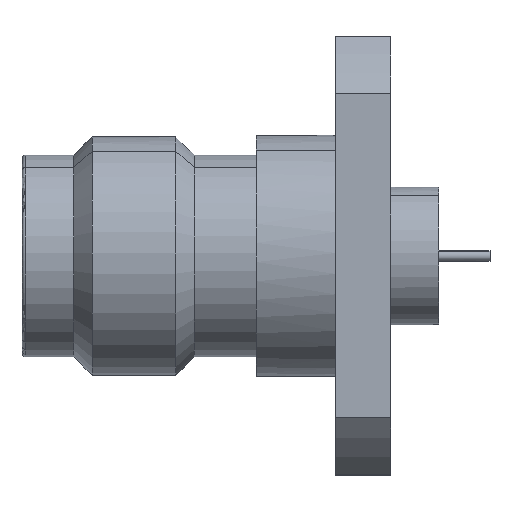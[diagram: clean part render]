
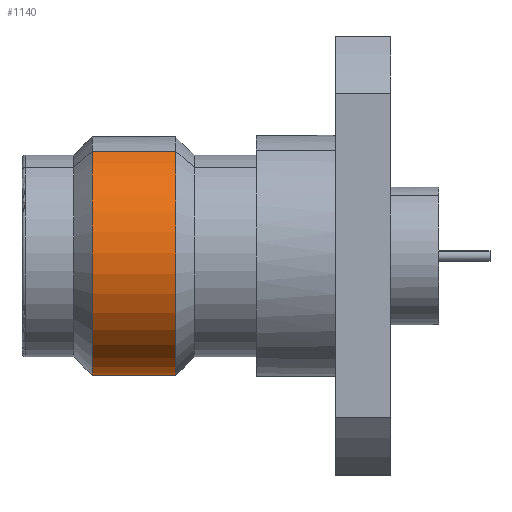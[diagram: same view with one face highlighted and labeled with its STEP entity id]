
A CAD part, top view. The second image highlights one B-rep face of the part: STEP entity #1140.
In plain terms, the highlighted cylindrical face has radius 3.46 mm (diameter 6.92 mm), a partial arc.
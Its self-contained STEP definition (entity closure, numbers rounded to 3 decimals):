
#1042=CARTESIAN_POINT('Vertex',(2.035,3.036,1.659)) ;
#1049=CARTESIAN_POINT('Vertex',(2.035,-3.036,-1.659)) ;
#1069=CARTESIAN_POINT('Axis2P3D Location',(2.035,0.,0.)) ;
#1086=CARTESIAN_POINT('Line Origine',(9.789,3.036,1.659)) ;
#1090=CARTESIAN_POINT('Vertex',(4.465,3.036,1.659)) ;
#1109=CARTESIAN_POINT('Vertex',(4.465,-3.036,-1.659)) ;
#1112=CARTESIAN_POINT('Line Origine',(9.789,-3.036,-1.659)) ;
#1124=CARTESIAN_POINT('Axis2P3D Location',(9.789,0.,0.)) ;
#1129=CARTESIAN_POINT('Axis2P3D Location',(4.465,0.,0.)) ;
#1070=DIRECTION('Axis2P3D Direction',(1.,0.,0.)) ;
#1087=DIRECTION('Vector Direction',(1.,0.,0.)) ;
#1113=DIRECTION('Vector Direction',(1.,0.,0.)) ;
#1125=DIRECTION('Axis2P3D Direction',(1.,0.,0.)) ;
#1126=DIRECTION('Axis2P3D XDirection',(0.,0.878,0.479)) ;
#1130=DIRECTION('Axis2P3D Direction',(1.,0.,0.)) ;
#1071=AXIS2_PLACEMENT_3D('Circle Axis2P3D',#1069,#1070,$) ;
#1127=AXIS2_PLACEMENT_3D('Cylinder Axis2P3D',#1124,#1125,#1126) ;
#1131=AXIS2_PLACEMENT_3D('Circle Axis2P3D',#1129,#1130,$) ;
#1135=ORIENTED_EDGE('',*,*,#1116,.T.) ;
#1136=ORIENTED_EDGE('',*,*,#1133,.F.) ;
#1137=ORIENTED_EDGE('',*,*,#1092,.F.) ;
#1138=ORIENTED_EDGE('',*,*,#1073,.T.) ;
#1088=VECTOR('Line Direction',#1087,1.) ;
#1114=VECTOR('Line Direction',#1113,1.) ;
#1140=ADVANCED_FACE('',(#1139),#1128,.T.) ;
#1072=CIRCLE('generated circle',#1071,3.46) ;
#1132=CIRCLE('generated circle',#1131,3.46) ;
#1128=CYLINDRICAL_SURFACE('generated cylinder',#1127,3.46) ;
#1073=EDGE_CURVE('',#1043,#1050,#1072,.T.) ;
#1092=EDGE_CURVE('',#1043,#1091,#1089,.T.) ;
#1116=EDGE_CURVE('',#1050,#1110,#1115,.T.) ;
#1133=EDGE_CURVE('',#1091,#1110,#1132,.T.) ;
#1134=EDGE_LOOP('',(#1135,#1136,#1137,#1138)) ;
#1139=FACE_OUTER_BOUND('',#1134,.T.) ;
#1089=LINE('Line',#1086,#1088) ;
#1115=LINE('Line',#1112,#1114) ;
#1043=VERTEX_POINT('',#1042) ;
#1050=VERTEX_POINT('',#1049) ;
#1091=VERTEX_POINT('',#1090) ;
#1110=VERTEX_POINT('',#1109) ;
